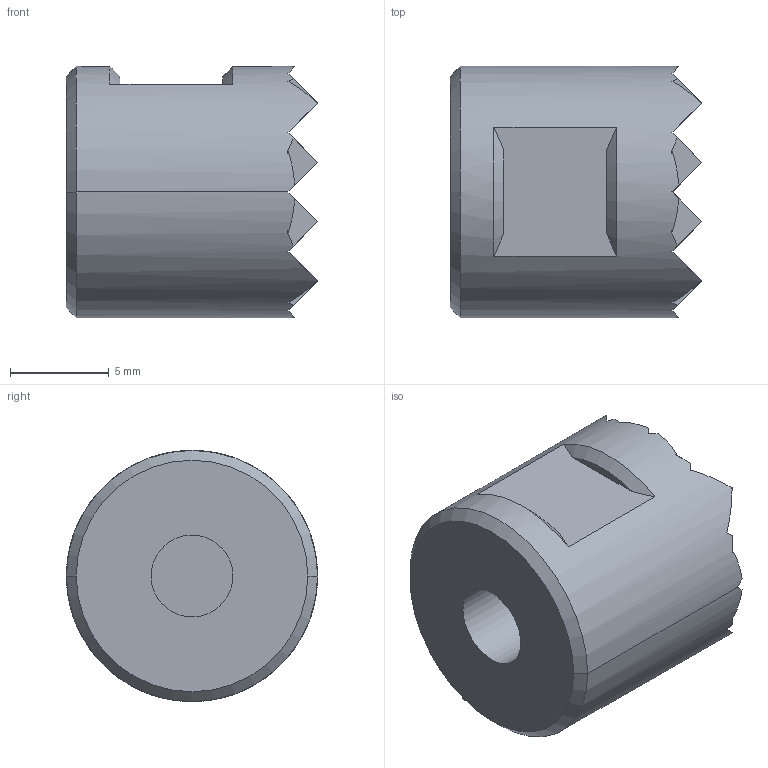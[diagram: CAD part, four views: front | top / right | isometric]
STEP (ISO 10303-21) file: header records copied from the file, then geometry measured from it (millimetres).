
FILE_DESCRIPTION(('CATIA V5 STEP Exchange'),'2;1');
FILE_NAME('\\kjf-102\KJF_TC\Hydraulic_Clamp\Standard\TOGGLE PAD\CP-31\CP-31_-.stp','2024-07-08T03:25:36+00:00',('none'),('none'),'CATIA Version 5 Release 19 SP 9 (IN-10)','CATIA V5 STEP AP214','none');
FILE_SCHEMA(('AUTOMOTIVE_DESIGN { 1 0 10303 214 1 1 1 1 }'));
Length unit declared in the file: millimetre
Products named in the file (1): CP-31_-
Bounding box: 12.7 x 12.7 x 12.7 mm (x, y, z)
Volume: 1347 mm3; surface area: 863.4 mm2
Topology: 1 solids, 1 shells, 85 faces, 162 edges, 81 vertices
Faces by surface type: plane 77, cylinder 4, cone 4
Entity records: 1889 total; most frequent: CARTESIAN_POINT 497, ORIENTED_EDGE 324, DIRECTION 180, EDGE_CURVE 162, VECTOR 106, LINE 106, EDGE_LOOP 87, ADVANCED_FACE 85
